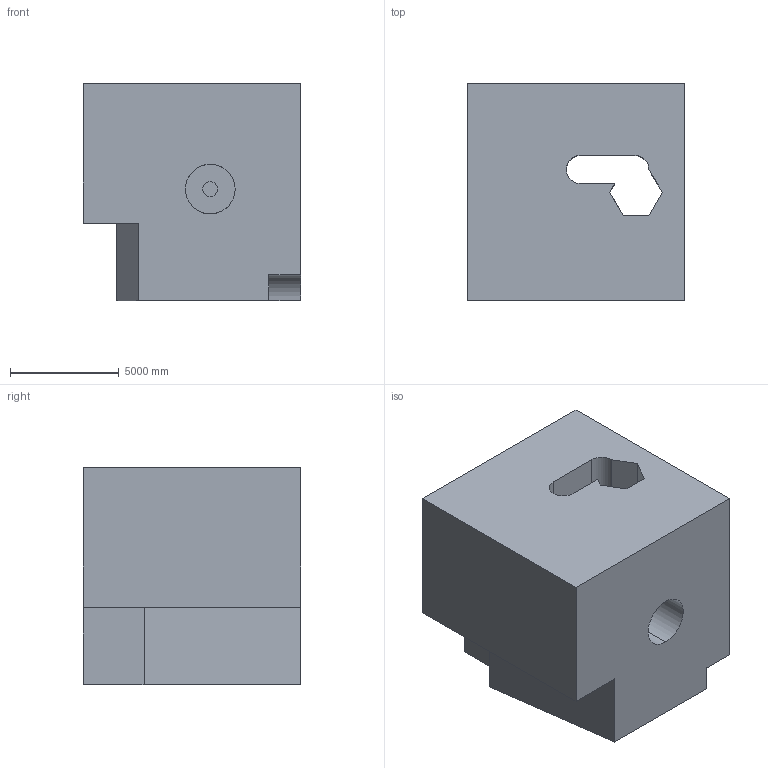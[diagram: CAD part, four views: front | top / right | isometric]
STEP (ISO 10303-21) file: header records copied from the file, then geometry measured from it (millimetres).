
FILE_DESCRIPTION (( 'STEP AP203' ), '1' );
FILE_NAME ('1502.STEP', '2022-08-18T14:52:35', ( 'user' ), ( '' ), 'SwSTEP 2.0', 'SolidWorks 2021', '' );
FILE_SCHEMA (( 'CONFIG_CONTROL_DESIGN' ));
Length unit declared in the file: centimetre
Products named in the file (1): 1502
Bounding box: 10000 x 10000 x 10000 mm (x, y, z)
Volume: 815675372150.8 mm3; surface area: 732957353.4 mm2
Topology: 1 solids, 1 shells, 33 faces, 93 edges, 62 vertices
Faces by surface type: plane 24, cylinder 9
Entity records: 1335 total; most frequent: CARTESIAN_POINT 384, ORIENTED_EDGE 186, DIRECTION 177, EDGE_CURVE 93, LINE 67, VECTOR 67, VERTEX_POINT 62, AXIS2_PLACEMENT_3D 55
